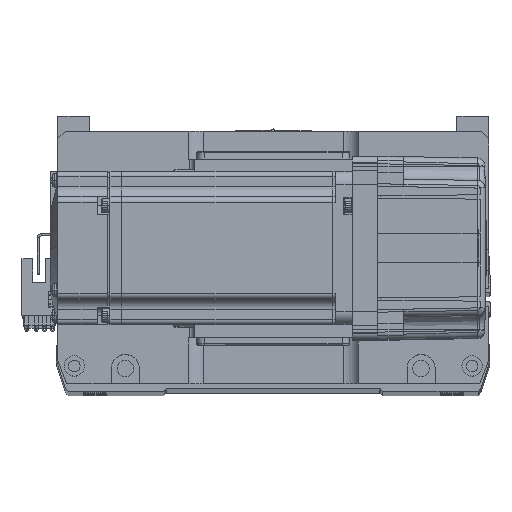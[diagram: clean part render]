
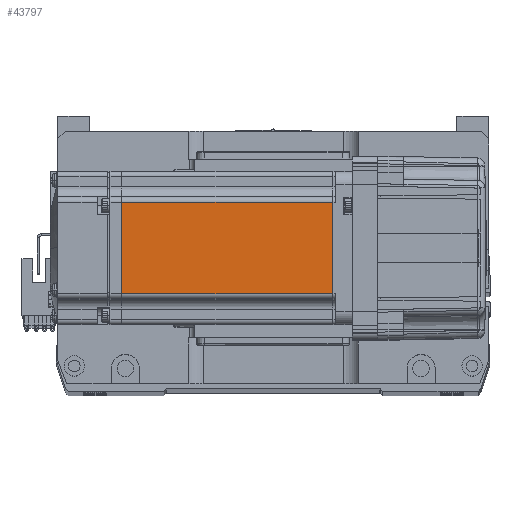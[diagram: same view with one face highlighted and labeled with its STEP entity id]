
A CAD part, top view. The second image highlights one B-rep face of the part: STEP entity #43797.
In plain terms, the highlighted planar face has unit normal (0, 0, 1).
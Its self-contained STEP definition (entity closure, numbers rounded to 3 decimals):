
#2086 = DIRECTION ( 'NONE',  ( -1., 0., 0. ) ) ;
#4552 = VERTEX_POINT ( 'NONE', #36623 ) ;
#4855 = VECTOR ( 'NONE', #2086, 1000. ) ;
#5986 = LINE ( 'NONE', #56920, #55436 ) ;
#6284 = ORIENTED_EDGE ( 'NONE', *, *, #56120, .T. ) ;
#8373 = LINE ( 'NONE', #42361, #28100 ) ;
#9140 = VECTOR ( 'NONE', #42059, 1000. ) ;
#16736 = LINE ( 'NONE', #36516, #9140 ) ;
#16790 = CARTESIAN_POINT ( 'NONE',  ( -6.5, -18., 30. ) ) ;
#17210 = CARTESIAN_POINT ( 'NONE',  ( -6.5, -25., 30. ) ) ;
#17424 = DIRECTION ( 'NONE',  ( 1., 0., 0. ) ) ;
#17615 = DIRECTION ( 'NONE',  ( 0., -1., 0. ) ) ;
#20306 = VERTEX_POINT ( 'NONE', #45384 ) ;
#20612 = ORIENTED_EDGE ( 'NONE', *, *, #43773, .T. ) ;
#21886 = EDGE_LOOP ( 'NONE', ( #50122, #20612, #6284, #29015 ) ) ;
#22497 = DIRECTION ( 'NONE',  ( 0., 0., 1. ) ) ;
#23836 = LINE ( 'NONE', #16790, #4855 ) ;
#24525 = VERTEX_POINT ( 'NONE', #38641 ) ;
#25297 = VERTEX_POINT ( 'NONE', #46630 ) ;
#26048 = AXIS2_PLACEMENT_3D ( 'NONE', #17210, #22497, #17424 ) ;
#28100 = VECTOR ( 'NONE', #61490, 1000. ) ;
#29015 = ORIENTED_EDGE ( 'NONE', *, *, #36550, .F. ) ;
#36516 = CARTESIAN_POINT ( 'NONE',  ( -6.5, 18., 30. ) ) ;
#36550 = EDGE_CURVE ( 'NONE', #20306, #4552, #23836, .T. ) ;
#36623 = CARTESIAN_POINT ( 'NONE',  ( -90.45, -18., 30. ) ) ;
#38641 = CARTESIAN_POINT ( 'NONE',  ( -7.75, 18., 30. ) ) ;
#42059 = DIRECTION ( 'NONE',  ( -1., 0., 0. ) ) ;
#42361 = CARTESIAN_POINT ( 'NONE',  ( -7.75, 0., 30. ) ) ;
#43773 = EDGE_CURVE ( 'NONE', #24525, #25297, #16736, .T. ) ;
#43797 = ADVANCED_FACE ( 'NONE', ( #44865 ), #46545, .T. ) ;
#44865 = FACE_OUTER_BOUND ( 'NONE', #21886, .T. ) ;
#45384 = CARTESIAN_POINT ( 'NONE',  ( -7.75, -18., 30. ) ) ;
#46545 = PLANE ( 'NONE',  #26048 ) ;
#46630 = CARTESIAN_POINT ( 'NONE',  ( -90.45, 18., 30. ) ) ;
#46904 = EDGE_CURVE ( 'NONE', #24525, #20306, #8373, .T. ) ;
#50122 = ORIENTED_EDGE ( 'NONE', *, *, #46904, .F. ) ;
#55436 = VECTOR ( 'NONE', #17615, 1000. ) ;
#56120 = EDGE_CURVE ( 'NONE', #25297, #4552, #5986, .T. ) ;
#56920 = CARTESIAN_POINT ( 'NONE',  ( -90.45, 0., 30. ) ) ;
#61490 = DIRECTION ( 'NONE',  ( 0., -1., 0. ) ) ;
